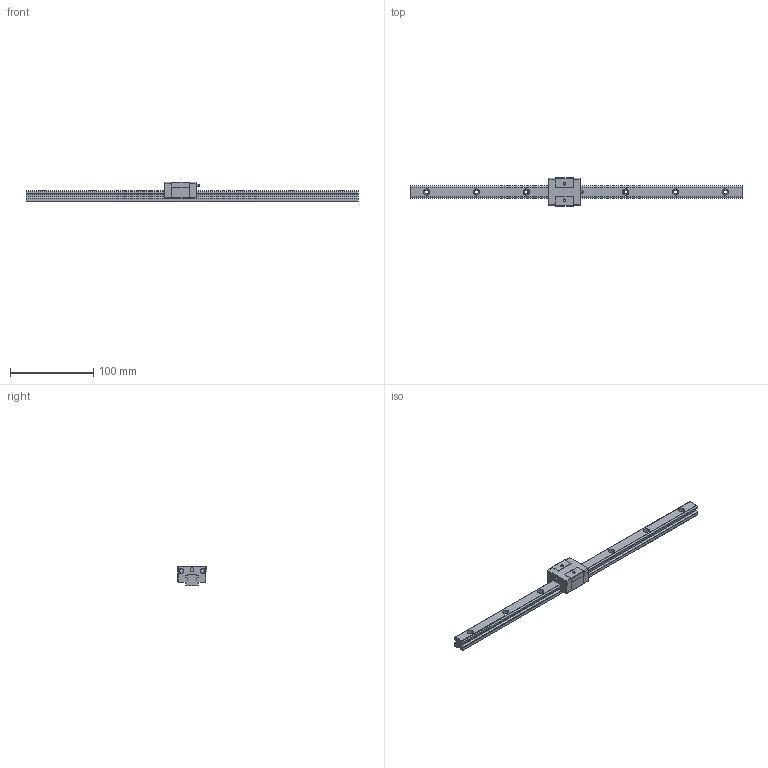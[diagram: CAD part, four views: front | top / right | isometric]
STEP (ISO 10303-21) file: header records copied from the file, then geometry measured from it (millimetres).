
FILE_DESCRIPTION((''),'2;1');
FILE_NAME('C:\Documents and Settings\土屋\My Documents\土屋移動用フォルダ\製品 (図面)\カタログ用3D\リニアガイド\LGS関連\LGS15S.stp','2012-12-13T10:56:59',('y'),(''),'Autodesk Inventor 11','Autodesk Inventor 11','');
FILE_SCHEMA(('AUTOMOTIVE_DESIGN { 1 0 10303 214 1 1 1 1 }'));
Length unit declared in the file: millimetre
Products named in the file (3): LGS15S(1); LGS15レール1
Assembly tree (2 placements, depth 2):
  LGS15S(1)
    LGS15レール1
    LGS15S(1)
Bounding box: 400 x 34 x 24 mm (x, y, z)
Volume: 88237.5 mm3; surface area: 31687.9 mm2
Topology: 2 solids, 2 shells, 129 faces, 317 edges, 211 vertices
Faces by surface type: plane 71, bspline 33, cylinder 23, sphere 2
Full cylindrical faces by diameter (mm): 3 x1, 4 x1, 4.5 x1, 5.5 x2, 6 x2
Entity records: 4021 total; most frequent: CARTESIAN_POINT 1043, DIRECTION 574, ORIENTED_EDGE 562, EDGE_CURVE 281, VERTEX_POINT 207, EDGE_LOOP 194, AXIS2_PLACEMENT_3D 192, VECTOR 190
